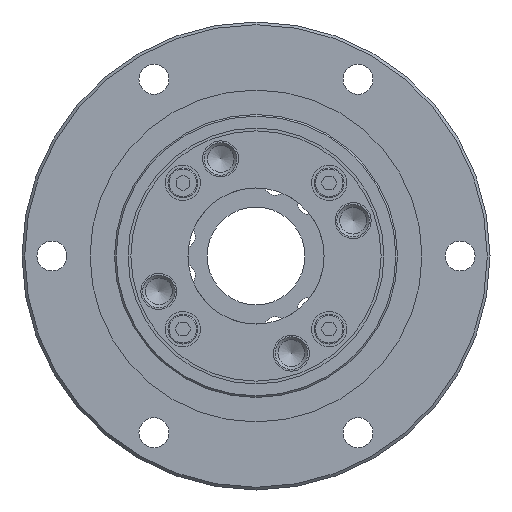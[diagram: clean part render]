
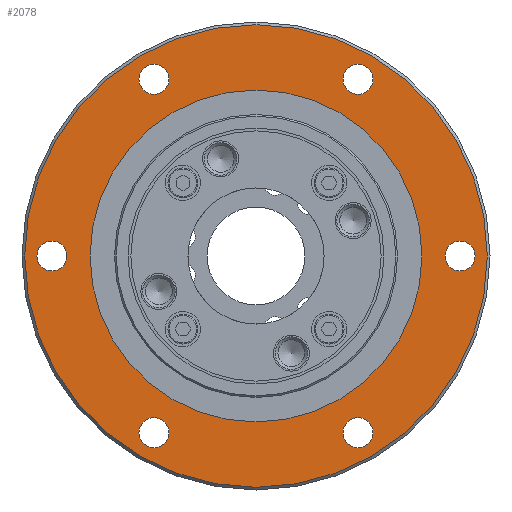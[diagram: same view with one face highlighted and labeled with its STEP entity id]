
A CAD part, left-side view. The second image highlights one B-rep face of the part: STEP entity #2078.
In plain terms, the highlighted planar face has unit normal (-1, 0, 0).
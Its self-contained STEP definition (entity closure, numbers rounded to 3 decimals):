
#91=PLANE('',#2358);
#219=CIRCLE('',#2359,42.5);
#220=CIRCLE('',#2360,2.75);
#221=CIRCLE('',#2361,2.75);
#222=CIRCLE('',#2362,2.75);
#223=CIRCLE('',#2363,2.75);
#224=CIRCLE('',#2364,2.75);
#225=CIRCLE('',#2365,2.75);
#226=CIRCLE('',#2366,30.5);
#482=ORIENTED_EDGE('',*,*,#873,.F.);
#483=ORIENTED_EDGE('',*,*,#874,.T.);
#484=ORIENTED_EDGE('',*,*,#875,.T.);
#485=ORIENTED_EDGE('',*,*,#876,.T.);
#486=ORIENTED_EDGE('',*,*,#877,.T.);
#487=ORIENTED_EDGE('',*,*,#878,.T.);
#488=ORIENTED_EDGE('',*,*,#879,.T.);
#489=ORIENTED_EDGE('',*,*,#880,.T.);
#873=EDGE_CURVE('',#1095,#1095,#219,.T.);
#874=EDGE_CURVE('',#1096,#1096,#220,.T.);
#875=EDGE_CURVE('',#1097,#1097,#221,.T.);
#876=EDGE_CURVE('',#1098,#1098,#222,.T.);
#877=EDGE_CURVE('',#1099,#1099,#223,.T.);
#878=EDGE_CURVE('',#1100,#1100,#224,.T.);
#879=EDGE_CURVE('',#1101,#1101,#225,.T.);
#880=EDGE_CURVE('',#1102,#1102,#226,.T.);
#1095=VERTEX_POINT('',#3567);
#1096=VERTEX_POINT('',#3569);
#1097=VERTEX_POINT('',#3571);
#1098=VERTEX_POINT('',#3573);
#1099=VERTEX_POINT('',#3575);
#1100=VERTEX_POINT('',#3577);
#1101=VERTEX_POINT('',#3579);
#1102=VERTEX_POINT('',#3581);
#1476=EDGE_LOOP('',(#482));
#1477=EDGE_LOOP('',(#483));
#1478=EDGE_LOOP('',(#484));
#1479=EDGE_LOOP('',(#485));
#1480=EDGE_LOOP('',(#486));
#1481=EDGE_LOOP('',(#487));
#1482=EDGE_LOOP('',(#488));
#1483=EDGE_LOOP('',(#489));
#1774=FACE_BOUND('',#1476,.T.);
#1775=FACE_BOUND('',#1477,.T.);
#1776=FACE_BOUND('',#1478,.T.);
#1777=FACE_BOUND('',#1479,.T.);
#1778=FACE_BOUND('',#1480,.T.);
#1779=FACE_BOUND('',#1481,.T.);
#1780=FACE_BOUND('',#1482,.T.);
#1781=FACE_BOUND('',#1483,.T.);
#2078=ADVANCED_FACE('',(#1774,#1775,#1776,#1777,#1778,#1779,#1780,#1781),
#91,.F.);
#2358=AXIS2_PLACEMENT_3D('',#3565,#2847,#2848);
#2359=AXIS2_PLACEMENT_3D('',#3566,#2849,#2850);
#2360=AXIS2_PLACEMENT_3D('',#3568,#2851,#2852);
#2361=AXIS2_PLACEMENT_3D('',#3570,#2853,#2854);
#2362=AXIS2_PLACEMENT_3D('',#3572,#2855,#2856);
#2363=AXIS2_PLACEMENT_3D('',#3574,#2857,#2858);
#2364=AXIS2_PLACEMENT_3D('',#3576,#2859,#2860);
#2365=AXIS2_PLACEMENT_3D('',#3578,#2861,#2862);
#2366=AXIS2_PLACEMENT_3D('',#3580,#2863,#2864);
#2847=DIRECTION('',(1.,0.,0.));
#2848=DIRECTION('',(0.,0.,-1.));
#2849=DIRECTION('',(1.,0.,0.));
#2850=DIRECTION('',(0.,0.,-1.));
#2851=DIRECTION('',(1.,0.,0.));
#2852=DIRECTION('',(0.,0.,-1.));
#2853=DIRECTION('',(1.,0.,0.));
#2854=DIRECTION('',(0.,0.,-1.));
#2855=DIRECTION('',(1.,0.,0.));
#2856=DIRECTION('',(0.,0.,-1.));
#2857=DIRECTION('',(1.,0.,0.));
#2858=DIRECTION('',(0.,0.,-1.));
#2859=DIRECTION('',(1.,0.,0.));
#2860=DIRECTION('',(0.,0.,-1.));
#2861=DIRECTION('',(1.,0.,0.));
#2862=DIRECTION('',(0.,0.,-1.));
#2863=DIRECTION('',(1.,0.,0.));
#2864=DIRECTION('',(0.,0.,-1.));
#3565=CARTESIAN_POINT('',(13.,26.,0.));
#3566=CARTESIAN_POINT('',(13.,0.,0.));
#3567=CARTESIAN_POINT('',(13.,0.,-42.5));
#3568=CARTESIAN_POINT('',(13.,37.5,0.));
#3569=CARTESIAN_POINT('',(13.,37.5,-2.75));
#3570=CARTESIAN_POINT('',(13.,18.75,32.476));
#3571=CARTESIAN_POINT('',(13.,18.75,29.726));
#3572=CARTESIAN_POINT('',(13.,-18.75,32.476));
#3573=CARTESIAN_POINT('',(13.,-18.75,29.726));
#3574=CARTESIAN_POINT('',(13.,-37.5,0.));
#3575=CARTESIAN_POINT('',(13.,-37.5,-2.75));
#3576=CARTESIAN_POINT('',(13.,-18.75,-32.476));
#3577=CARTESIAN_POINT('',(13.,-18.75,-35.226));
#3578=CARTESIAN_POINT('',(13.,18.75,-32.476));
#3579=CARTESIAN_POINT('',(13.,18.75,-35.226));
#3580=CARTESIAN_POINT('',(13.,0.,0.));
#3581=CARTESIAN_POINT('',(13.,0.,-30.5));
